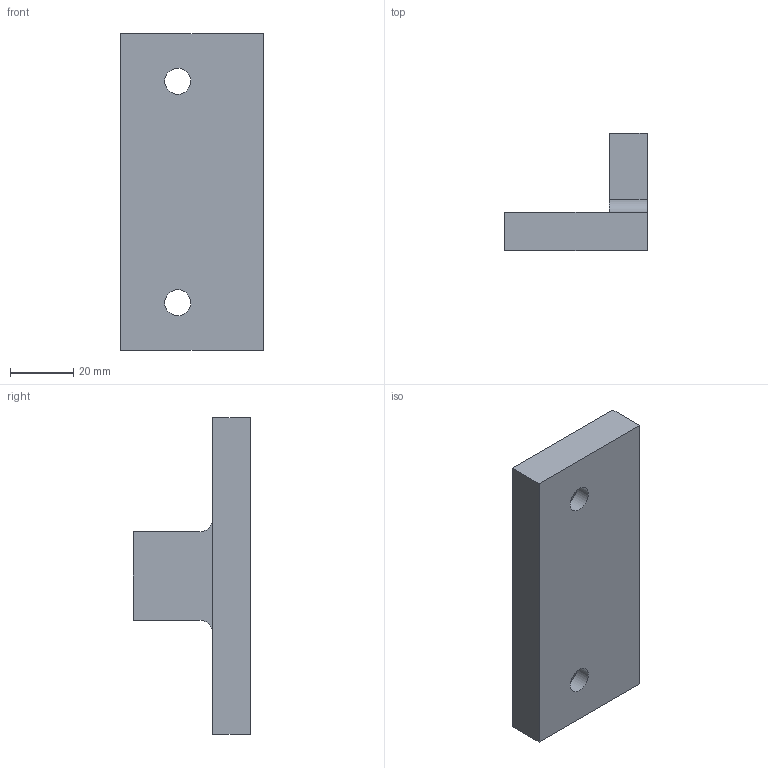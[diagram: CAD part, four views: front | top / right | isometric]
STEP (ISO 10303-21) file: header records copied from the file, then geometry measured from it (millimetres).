
FILE_DESCRIPTION(/* description */ (''),/* implementation_level */ '2;1');
FILE_NAME(/* name */ '040_piedeRack#10.stp',/* time_stamp */ '2020-01-08T15:21:05+01:00',/* author */ (''),/* organization */ (''),/* preprocessor_version */ 'ST-DEVELOPER v16.7',/* originating_system */ 'SIEMENS PLM Software NX 12.0',/* authorisation */ '');
FILE_SCHEMA (('AUTOMOTIVE_DESIGN { 1 0 10303 214 3 1 1 1 }'));
Length unit declared in the file: millimetre
Products named in the file (1): bez2C70411Cqd3g
Bounding box: 45 x 37 x 100 mm (x, y, z)
Volume: 59543.4 mm3; surface area: 14897.3 mm2
Topology: 1 solids, 1 shells, 18 faces, 47 edges, 31 vertices
Faces by surface type: plane 10, cylinder 6, cone 2
Full cylindrical faces by diameter (mm): 8.2 x2, 18 x2
Entity records: 538 total; most frequent: DIRECTION 88, CARTESIAN_POINT 85, ORIENTED_EDGE 76, EDGE_CURVE 38, AXIS2_PLACEMENT_3D 31, EDGE_LOOP 28, VERTEX_POINT 28, LINE 26
